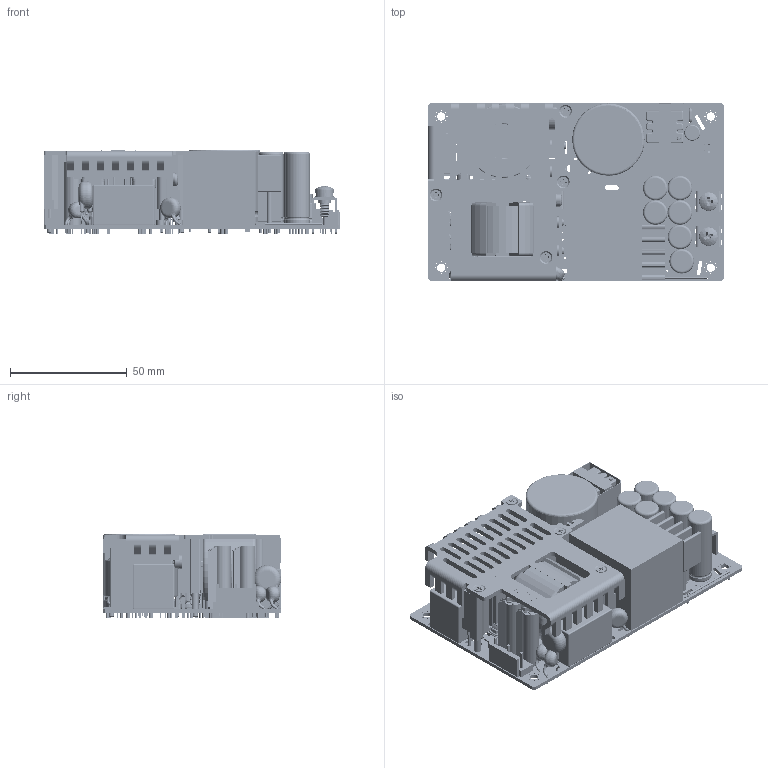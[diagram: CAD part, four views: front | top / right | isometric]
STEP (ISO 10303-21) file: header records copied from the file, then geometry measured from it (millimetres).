
FILE_DESCRIPTION (( 'STEP AP214' ), '1' );
FILE_NAME ('CUS600M(19V~48V-NO SMD)-20191023.STEP', '2019-10-23T08:31:25', ( '' ), ( '' ), 'SwSTEP 2.0', 'SolidWorks 2017', '' );
FILE_SCHEMA (( 'AUTOMOTIVE_DESIGN' ));
Length unit declared in the file: millimetre
Products named in the file (1): CUS600M(19V~48V-NO SMD)-20191023
Bounding box: 127 x 76.25 x 36.3 mm (x, y, z)
Volume: 180076.8 mm3; surface area: 116683.1 mm2
Topology: 119 solids, 120 shells, 4793 faces, 12054 edges, 7592 vertices
Faces by surface type: plane 1998, cylinder 1735, cone 616, torus 384, bspline 34, sphere 26
Entity records: 201518 total; most frequent: CARTESIAN_POINT 28258, DIRECTION 26282, ORIENTED_EDGE 24032, EDGE_CURVE 12016, AXIS2_PLACEMENT_3D 9748, VERTEX_POINT 7592, VECTOR 6786, LINE 6786
